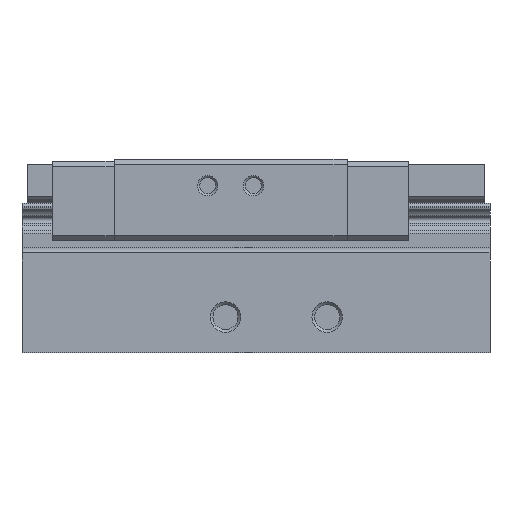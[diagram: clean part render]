
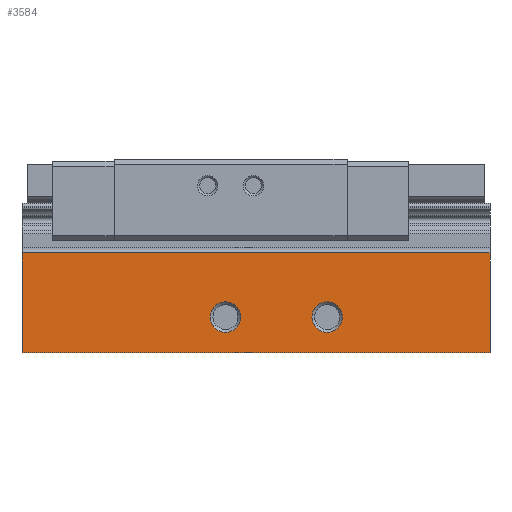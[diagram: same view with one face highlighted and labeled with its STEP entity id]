
A CAD part, left-side view. The second image highlights one B-rep face of the part: STEP entity #3584.
In plain terms, the highlighted planar face has unit normal (-1, 0, 0).
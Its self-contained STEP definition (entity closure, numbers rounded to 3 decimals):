
#127=CIRCLE('',#3893,1.5);
#128=CIRCLE('',#3894,1.5);
#307=ORIENTED_EDGE('',*,*,#1291,.T.);
#308=ORIENTED_EDGE('',*,*,#1292,.T.);
#309=ORIENTED_EDGE('',*,*,#1293,.T.);
#310=ORIENTED_EDGE('',*,*,#1294,.F.);
#311=ORIENTED_EDGE('',*,*,#1295,.F.);
#312=ORIENTED_EDGE('',*,*,#1282,.T.);
#1282=EDGE_CURVE('',#1775,#1774,#2125,.T.);
#1291=EDGE_CURVE('',#1783,#1783,#127,.T.);
#1292=EDGE_CURVE('',#1784,#1784,#128,.T.);
#1293=EDGE_CURVE('',#1774,#1785,#2130,.T.);
#1294=EDGE_CURVE('',#1786,#1785,#2131,.T.);
#1295=EDGE_CURVE('',#1775,#1786,#2132,.T.);
#1774=VERTEX_POINT('',#5459);
#1775=VERTEX_POINT('',#5461);
#1783=VERTEX_POINT('',#5479);
#1784=VERTEX_POINT('',#5481);
#1785=VERTEX_POINT('',#5483);
#1786=VERTEX_POINT('',#5485);
#2125=LINE('',#5460,#2451);
#2130=LINE('',#5482,#2456);
#2131=LINE('',#5484,#2457);
#2132=LINE('',#5486,#2458);
#2451=VECTOR('',#4313,1000.);
#2456=VECTOR('',#4332,1000.);
#2457=VECTOR('',#4333,1000.);
#2458=VECTOR('',#4334,1000.);
#2776=EDGE_LOOP('',(#307));
#2777=EDGE_LOOP('',(#308));
#2778=EDGE_LOOP('',(#309,#310,#311,#312));
#3112=FACE_BOUND('',#2776,.T.);
#3113=FACE_BOUND('',#2777,.T.);
#3114=FACE_BOUND('',#2778,.T.);
#3442=PLANE('',#3892);
#3584=ADVANCED_FACE('',(#3112,#3113,#3114),#3442,.F.);
#3892=AXIS2_PLACEMENT_3D('',#5477,#4326,#4327);
#3893=AXIS2_PLACEMENT_3D('',#5478,#4328,#4329);
#3894=AXIS2_PLACEMENT_3D('',#5480,#4330,#4331);
#4313=DIRECTION('',(0.,-1.,0.));
#4326=DIRECTION('',(1.,0.,0.));
#4327=DIRECTION('',(0.,0.,-1.));
#4328=DIRECTION('',(1.,0.,0.));
#4329=DIRECTION('',(0.,0.,-1.));
#4330=DIRECTION('',(1.,0.,0.));
#4331=DIRECTION('',(0.,0.,-1.));
#4332=DIRECTION('',(0.,0.,1.));
#4333=DIRECTION('',(0.,-1.,0.));
#4334=DIRECTION('',(0.,0.,1.));
#5459=CARTESIAN_POINT('',(-11.5,0.,0.));
#5460=CARTESIAN_POINT('',(-11.5,46.,0.));
#5461=CARTESIAN_POINT('',(-11.5,46.,0.));
#5477=CARTESIAN_POINT('',(-11.5,46.,0.));
#5478=CARTESIAN_POINT('',(-11.5,26.,3.5));
#5479=CARTESIAN_POINT('',(-11.5,26.,2.));
#5480=CARTESIAN_POINT('',(-11.5,16.,3.5));
#5481=CARTESIAN_POINT('',(-11.5,16.,2.));
#5482=CARTESIAN_POINT('',(-11.5,0.,0.));
#5483=CARTESIAN_POINT('',(-11.5,0.,9.8));
#5484=CARTESIAN_POINT('',(-11.5,46.,9.8));
#5485=CARTESIAN_POINT('',(-11.5,46.,9.8));
#5486=CARTESIAN_POINT('',(-11.5,46.,0.));
